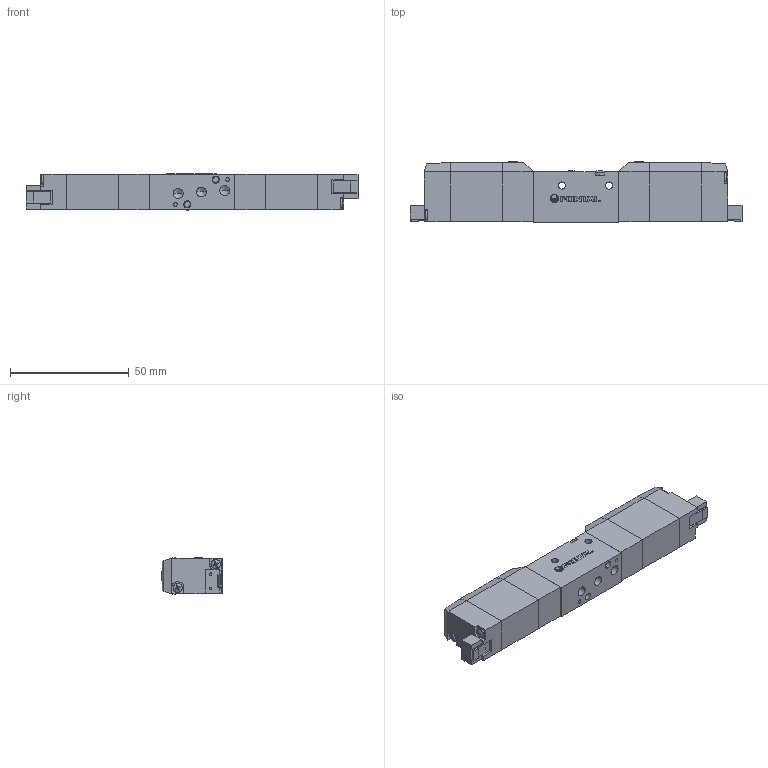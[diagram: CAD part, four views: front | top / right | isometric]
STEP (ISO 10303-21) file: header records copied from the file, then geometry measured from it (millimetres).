
FILE_DESCRIPTION (( 'STEP AP203' ), '1' );
FILE_NAME ('RCD(E¡BO)345#-M5-#-SP-#.STEP', '2016-02-04T03:56:11', ( 'Sam Lin' ), ( '' ), 'SwSTEP 2.0', 'SolidWorks 2013', '' );
FILE_SCHEMA (( 'CONFIG_CONTROL_DESIGN' ));
Length unit declared in the file: metre
Products named in the file (10): RCD(E、O)345#-M5-#-SP-#; PC-MARK; PC5-5; PC5-6; PC5-7; ISO 7045 - M2 x 10; PC5-8; PC5-10; ISO 7045 - M2.5 x 25; RCS-2
Assembly tree (18 placements, depth 2):
  RCD(E、O)345#-M5-#-SP-#
    RCS-2
    PC-MARK
    PC5-5  x2
    PC5-6  x2
    PC5-7  x2
    ISO 7045 - M2 x 10  x4
    PC5-8  x2
    PC5-10  x2
    ISO 7045 - M2.5 x 25  x2
Bounding box: 140 x 26 x 15.4 mm (x, y, z)
Volume: 44448.9 mm3; surface area: 19127.1 mm2
Topology: 26 solids, 26 shells, 604 faces, 1496 edges, 939 vertices
Faces by surface type: plane 385, cylinder 103, cone 72, bspline 44
Entity records: 11383 total; most frequent: CARTESIAN_POINT 2268, ORIENTED_EDGE 1626, DIRECTION 1589, EDGE_CURVE 813, LINE 535, VECTOR 535, AXIS2_PLACEMENT_3D 527, VERTEX_POINT 526
